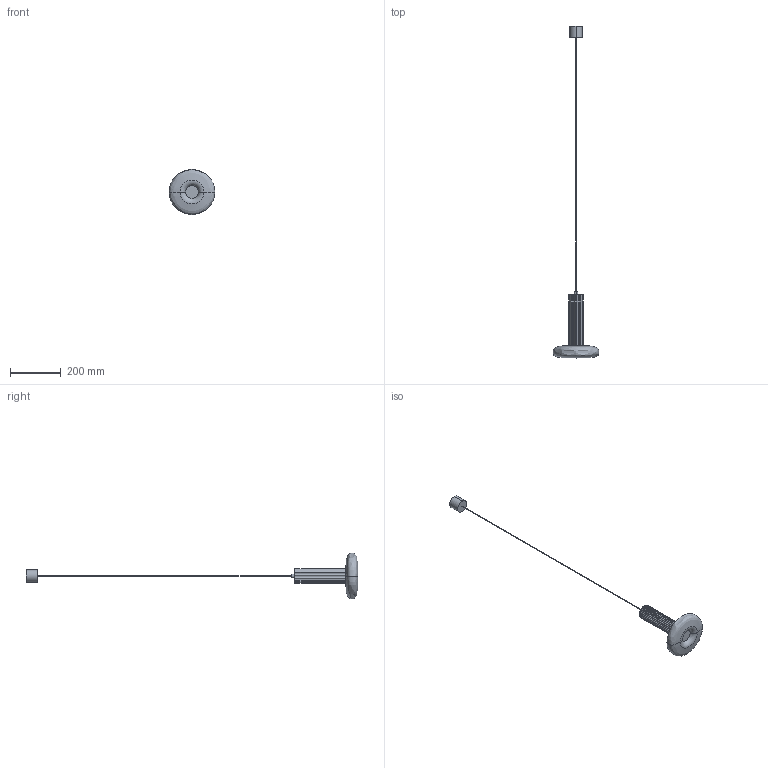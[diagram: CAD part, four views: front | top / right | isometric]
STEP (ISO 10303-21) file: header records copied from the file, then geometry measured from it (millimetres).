
FILE_DESCRIPTION (( 'STEP AP214' ), '1' );
FILE_NAME ('HULO_C1351.STEP', '2025-09-04T14:28:13', ( '' ), ( '' ), 'SwSTEP 2.0', 'SolidWorks 2018', '' );
FILE_SCHEMA (( 'AUTOMOTIVE_DESIGN' ));
Length unit declared in the file: millimetre
Products named in the file (1): HULO_C1351
Bounding box: 179.95 x 1308.45 x 179.65 mm (x, y, z)
Volume: 1545086.7 mm3; surface area: 142338.3 mm2
Topology: 5 solids, 5 shells, 86 faces, 226 edges, 150 vertices
Faces by surface type: cylinder 47, plane 35, bspline 2, torus 2
Entity records: 2860 total; most frequent: DIRECTION 546, CARTESIAN_POINT 519, ORIENTED_EDGE 452, AXIS2_PLACEMENT_3D 237, EDGE_CURVE 226, CIRCLE 152, VERTEX_POINT 150, ADVANCED_FACE 86
